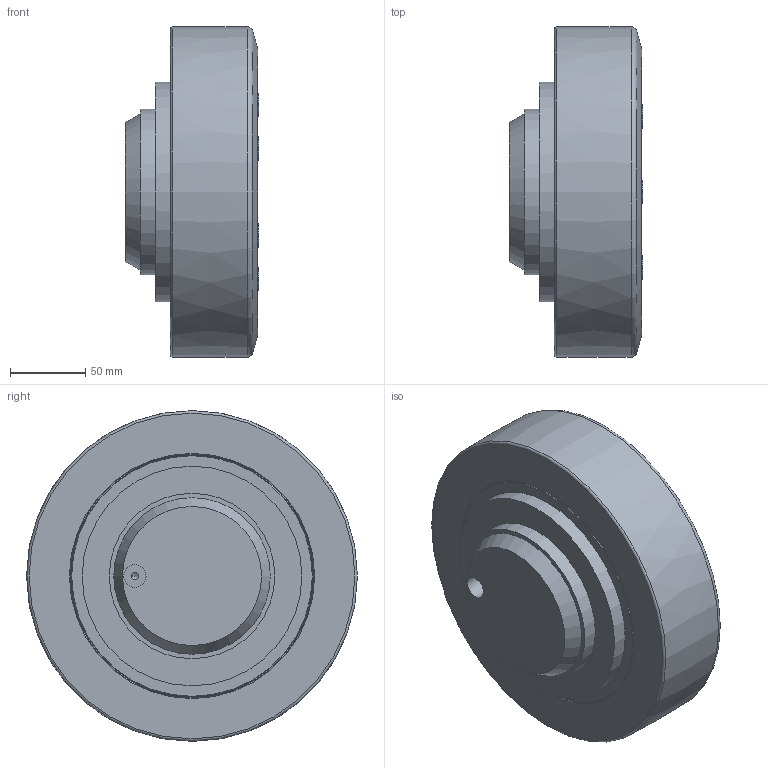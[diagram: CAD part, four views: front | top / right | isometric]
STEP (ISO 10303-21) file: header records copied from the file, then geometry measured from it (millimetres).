
FILE_DESCRIPTION(/* description */ ('-','CAx-IF Rec.Pracs.---Representation and Presentation of Product Manufacturing Information (PMI)---4.0---2014-10-13'),/* implementation_level */ '2;1');
FILE_NAME(/* name */ 'c:\temp\d06b9b8a-15f9-4d10-8949-6220367fdc40\3f0ee2ed-7b82-4efc-9fa2-4362728eb9d3.stp',/* time_stamp */ '2020-04-01T16:09:50+02:00',/* author */ ('-'),/* organization */ ('NTI CADcenter A/S'),/* preprocessor_version */ 'ST-DEVELOPER v18',/* originating_system */ 'Autodesk Inventor 2020',/* authorisation */ '-');
FILE_SCHEMA (('AP242_MANAGED_MODEL_BASED_3D_ENGINEERING_MIM_LF { 1 0 10303 442 1 1 4 }'));
Length unit declared in the file: millimetre
Products named in the file (1): MR 220.0410_Kontur
Bounding box: 88.71 x 219.98 x 220 mm (x, y, z)
Volume: 2507378.8 mm3; surface area: 145731.7 mm2
Topology: 1 solids, 1 shells, 94 faces, 244 edges, 174 vertices
Faces by surface type: plane 61, cylinder 17, cone 12, torus 3, bspline 1
Full cylindrical faces by diameter (mm): 2.5 x1, 4.917 x1, 15 x1, 15.6 x6, 110 x1, 146 x1, 147.5 x1, 148 x1, 160.5 x1, 161 x1, 162 x2
Entity records: 3063 total; most frequent: CARTESIAN_POINT 586, DIRECTION 531, ORIENTED_EDGE 486, EDGE_CURVE 243, AXIS2_PLACEMENT_3D 197, VERTEX_POINT 174, LINE 137, VECTOR 137
